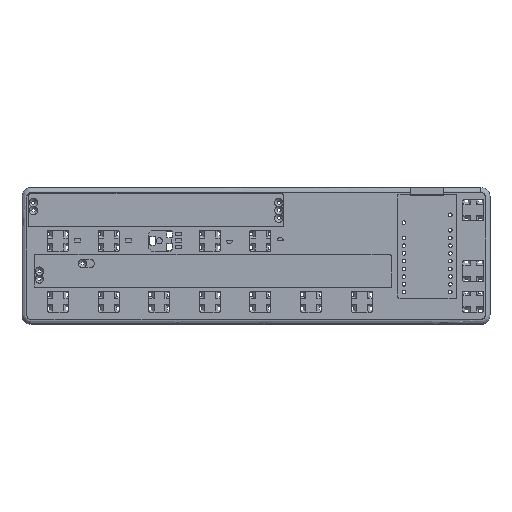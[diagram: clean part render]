
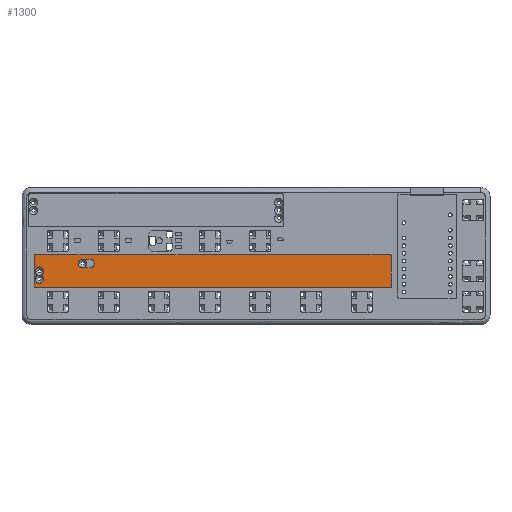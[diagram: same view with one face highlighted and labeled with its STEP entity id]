
A CAD part, top view. The second image highlights one B-rep face of the part: STEP entity #1300.
In plain terms, the highlighted planar face has unit normal (0, 0, 1).
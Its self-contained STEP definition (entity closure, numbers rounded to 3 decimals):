
#122=FACE_BOUND($,#4561,.T.);
#123=FACE_BOUND($,#4562,.T.);
#1300=ADVANCED_FACE($,(#2876,#122,#123),#22291,.T.);
#2876=FACE_OUTER_BOUND($,#4560,.T.);
#4560=EDGE_LOOP($,(#10676,#10677));
#4561=EDGE_LOOP($,(#10678,#10679,#10680,#10681));
#4562=EDGE_LOOP($,(#10682,#10683,#10684,#10685,#10686,#10687));
#10676=ORIENTED_EDGE($,*,*,#16890,.T.);
#10677=ORIENTED_EDGE($,*,*,#17978,.T.);
#10678=ORIENTED_EDGE($,*,*,#16889,.F.);
#10679=ORIENTED_EDGE($,*,*,#16884,.F.);
#10680=ORIENTED_EDGE($,*,*,#16887,.F.);
#10681=ORIENTED_EDGE($,*,*,#16886,.F.);
#10682=ORIENTED_EDGE($,*,*,#17985,.F.);
#10683=ORIENTED_EDGE($,*,*,#16883,.F.);
#10684=ORIENTED_EDGE($,*,*,#16882,.T.);
#10685=ORIENTED_EDGE($,*,*,#17983,.T.);
#10686=ORIENTED_EDGE($,*,*,#16877,.T.);
#10687=ORIENTED_EDGE($,*,*,#16879,.F.);
#16877=EDGE_CURVE($,#20013,#20016,#22645,.T.);
#16879=EDGE_CURVE($,#20014,#20016,#22647,.T.);
#16882=EDGE_CURVE($,#20015,#20741,#22649,.T.);
#16883=EDGE_CURVE($,#20015,#20742,#22650,.T.);
#16884=EDGE_CURVE($,#20017,#20019,#22651,.T.);
#16886=EDGE_CURVE($,#20018,#20020,#22653,.T.);
#16887=EDGE_CURVE($,#20020,#20017,#22654,.T.);
#16889=EDGE_CURVE($,#20019,#20018,#25779,.T.);
#16890=EDGE_CURVE($,#20021,#20738,#22656,.T.);
#17978=EDGE_CURVE($,#20738,#20021,#22831,.T.);
#17983=EDGE_CURVE($,#20741,#20013,#22836,.T.);
#17985=EDGE_CURVE($,#20742,#20014,#22838,.T.);
#20013=VERTEX_POINT($,#73745);
#20014=VERTEX_POINT($,#73746);
#20015=VERTEX_POINT($,#73747);
#20016=VERTEX_POINT($,#73748);
#20017=VERTEX_POINT($,#73749);
#20018=VERTEX_POINT($,#73750);
#20019=VERTEX_POINT($,#73751);
#20020=VERTEX_POINT($,#73752);
#20021=VERTEX_POINT($,#73753);
#20738=VERTEX_POINT($,#74470);
#20741=VERTEX_POINT($,#74473);
#20742=VERTEX_POINT($,#74474);
#22291=PLANE($,#27907);
#22645=(
BOUNDED_CURVE()
B_SPLINE_CURVE(2,(#42796,#42797,#42798),.UNSPECIFIED.,.F.,.F.)
B_SPLINE_CURVE_WITH_KNOTS((3,3),(-8.795,-7.225),.UNSPECIFIED.)
CURVE()
GEOMETRIC_REPRESENTATION_ITEM()
RATIONAL_B_SPLINE_CURVE((1.,0.843,1.))
REPRESENTATION_ITEM($)
);
#22647=(
BOUNDED_CURVE()
B_SPLINE_CURVE(2,(#42801,#42802,#42803),.UNSPECIFIED.,.F.,.F.)
B_SPLINE_CURVE_WITH_KNOTS((3,3),(-8.795,-7.225),.UNSPECIFIED.)
CURVE()
GEOMETRIC_REPRESENTATION_ITEM()
RATIONAL_B_SPLINE_CURVE((1.,0.843,1.))
REPRESENTATION_ITEM($)
);
#22649=(
BOUNDED_CURVE()
B_SPLINE_CURVE(2,(#42812,#42813,#42814),.UNSPECIFIED.,.F.,.F.)
B_SPLINE_CURVE_WITH_KNOTS((3,3),(-5.968,-4.398),.UNSPECIFIED.)
CURVE()
GEOMETRIC_REPRESENTATION_ITEM()
RATIONAL_B_SPLINE_CURVE((1.,0.843,1.))
REPRESENTATION_ITEM($)
);
#22650=(
BOUNDED_CURVE()
B_SPLINE_CURVE(2,(#42815,#42816,#42817),.UNSPECIFIED.,.F.,.F.)
B_SPLINE_CURVE_WITH_KNOTS((3,3),(-5.968,-4.398),.UNSPECIFIED.)
CURVE()
GEOMETRIC_REPRESENTATION_ITEM()
RATIONAL_B_SPLINE_CURVE((1.,0.843,1.))
REPRESENTATION_ITEM($)
);
#22651=(
BOUNDED_CURVE()
B_SPLINE_CURVE(2,(#42818,#42819,#42820),.UNSPECIFIED.,.F.,.F.)
B_SPLINE_CURVE_WITH_KNOTS((3,3),(-8.795,-6.596),.UNSPECIFIED.)
CURVE()
GEOMETRIC_REPRESENTATION_ITEM()
RATIONAL_B_SPLINE_CURVE((1.,0.707,1.))
REPRESENTATION_ITEM($)
);
#22653=(
BOUNDED_CURVE()
B_SPLINE_CURVE(2,(#42823,#42824,#42825,#42826,#42827,#42828,#42829,#42830,
#42831),.UNSPECIFIED.,.F.,.F.)
B_SPLINE_CURVE_WITH_KNOTS((3,2,2,2,3),(-7.5,-5.929,-4.358,
-3.108,-1.858),.UNSPECIFIED.)
CURVE()
GEOMETRIC_REPRESENTATION_ITEM()
RATIONAL_B_SPLINE_CURVE((1.,0.707,1.,0.707,1.,1.,
1.,1.,1.))
REPRESENTATION_ITEM($)
);
#22654=(
BOUNDED_CURVE()
B_SPLINE_CURVE(2,(#42832,#42833,#42834),.UNSPECIFIED.,.F.,.F.)
B_SPLINE_CURVE_WITH_KNOTS((3,3),(-2.199,0.),.UNSPECIFIED.)
CURVE()
GEOMETRIC_REPRESENTATION_ITEM()
RATIONAL_B_SPLINE_CURVE((1.,0.707,1.))
REPRESENTATION_ITEM($)
);
#22656=(
BOUNDED_CURVE()
B_SPLINE_CURVE(2,(#42841,#42842,#42843,#42844,#42845,#42846,#42847,#42848,
#42849),.UNSPECIFIED.,.F.,.F.)
B_SPLINE_CURVE_WITH_KNOTS((3,2,2,2,3),(0.,116.62,117.42,127.42,128.22),.UNSPECIFIED.)
CURVE()
GEOMETRIC_REPRESENTATION_ITEM()
RATIONAL_B_SPLINE_CURVE((1.,1.,1.,0.707,1.,1.,1.,0.707,
1.))
REPRESENTATION_ITEM($)
);
#22831=(
BOUNDED_CURVE()
B_SPLINE_CURVE(2,(#54461,#54462,#54463,#54464,#54465,#54466,#54467,#54468,
#54469),.UNSPECIFIED.,.F.,.F.)
B_SPLINE_CURVE_WITH_KNOTS((3,2,2,2,3),(128.22,244.84,245.64,255.64,256.44),
.UNSPECIFIED.)
CURVE()
GEOMETRIC_REPRESENTATION_ITEM()
RATIONAL_B_SPLINE_CURVE((1.,1.,1.,0.707,1.,1.,1.,0.707,
1.))
REPRESENTATION_ITEM($)
);
#22836=(
BOUNDED_CURVE()
B_SPLINE_CURVE(2,(#54490,#54491,#54492,#54493,#54494),.UNSPECIFIED.,.F.,
.F.)
B_SPLINE_CURVE_WITH_KNOTS((3,2,3),(-4.398,-2.199,0.),
.UNSPECIFIED.)
CURVE()
GEOMETRIC_REPRESENTATION_ITEM()
RATIONAL_B_SPLINE_CURVE((1.,0.707,1.,0.707,1.))
REPRESENTATION_ITEM($)
);
#22838=(
BOUNDED_CURVE()
B_SPLINE_CURVE(2,(#54497,#54498,#54499,#54500,#54501),.UNSPECIFIED.,.F.,
.F.)
B_SPLINE_CURVE_WITH_KNOTS((3,2,3),(-4.398,-2.199,0.),
.UNSPECIFIED.)
CURVE()
GEOMETRIC_REPRESENTATION_ITEM()
RATIONAL_B_SPLINE_CURVE((1.,0.707,1.,0.707,1.))
REPRESENTATION_ITEM($)
);
#25779=B_SPLINE_CURVE_WITH_KNOTS($,1,(#42838,#42839,#42840),.UNSPECIFIED.,
.F.,.F.,(2,1,2),(1.283,2.533,3.783),.UNSPECIFIED.);
#27907=AXIS2_PLACEMENT_3D($,#57246,#29079,$);
#29079=DIRECTION($,(0.,0.,1.));
#42796=CARTESIAN_POINT($,(4.35,14.96,3.5));
#42797=CARTESIAN_POINT($,(4.35,15.854,3.5));
#42798=CARTESIAN_POINT($,(5.16,16.23,3.5));
#42801=CARTESIAN_POINT($,(4.35,17.5,3.5));
#42802=CARTESIAN_POINT($,(4.35,16.606,3.5));
#42803=CARTESIAN_POINT($,(5.16,16.23,3.5));
#42812=CARTESIAN_POINT($,(6.339,16.23,3.5));
#42813=CARTESIAN_POINT($,(7.15,15.854,3.5));
#42814=CARTESIAN_POINT($,(7.15,14.96,3.5));
#42815=CARTESIAN_POINT($,(6.339,16.23,3.5));
#42816=CARTESIAN_POINT($,(7.15,16.606,3.5));
#42817=CARTESIAN_POINT($,(7.15,17.5,3.5));
#42818=CARTESIAN_POINT($,(18.51,20.04,3.5));
#42819=CARTESIAN_POINT($,(18.51,18.64,3.5));
#42820=CARTESIAN_POINT($,(19.91,18.64,3.5));
#42823=CARTESIAN_POINT($,(22.41,18.64,3.5));
#42824=CARTESIAN_POINT($,(23.81,18.64,3.5));
#42825=CARTESIAN_POINT($,(23.81,20.04,3.5));
#42826=CARTESIAN_POINT($,(23.81,21.44,3.5));
#42827=CARTESIAN_POINT($,(22.41,21.44,3.5));
#42828=CARTESIAN_POINT($,(21.785,21.44,3.5));
#42829=CARTESIAN_POINT($,(21.16,21.44,3.5));
#42830=CARTESIAN_POINT($,(20.535,21.44,3.5));
#42831=CARTESIAN_POINT($,(19.91,21.44,3.5));
#42832=CARTESIAN_POINT($,(19.91,21.44,3.5));
#42833=CARTESIAN_POINT($,(18.51,21.44,3.5));
#42834=CARTESIAN_POINT($,(18.51,20.04,3.5));
#42838=CARTESIAN_POINT($,(19.91,18.64,3.5));
#42839=CARTESIAN_POINT($,(21.16,18.64,3.5));
#42840=CARTESIAN_POINT($,(22.41,18.64,3.5));
#42841=CARTESIAN_POINT($,(4.5,12.1,3.5));
#42842=CARTESIAN_POINT($,(62.81,12.1,3.5));
#42843=CARTESIAN_POINT($,(121.12,12.1,3.5));
#42844=CARTESIAN_POINT($,(121.52,12.1,3.5));
#42845=CARTESIAN_POINT($,(121.52,12.5,3.5));
#42846=CARTESIAN_POINT($,(121.52,17.5,3.5));
#42847=CARTESIAN_POINT($,(121.52,22.5,3.5));
#42848=CARTESIAN_POINT($,(121.52,22.9,3.5));
#42849=CARTESIAN_POINT($,(121.12,22.9,3.5));
#54461=CARTESIAN_POINT($,(121.12,22.9,3.5));
#54462=CARTESIAN_POINT($,(62.81,22.9,3.5));
#54463=CARTESIAN_POINT($,(4.5,22.9,3.5));
#54464=CARTESIAN_POINT($,(4.1,22.9,3.5));
#54465=CARTESIAN_POINT($,(4.1,22.5,3.5));
#54466=CARTESIAN_POINT($,(4.1,17.5,3.5));
#54467=CARTESIAN_POINT($,(4.1,12.5,3.5));
#54468=CARTESIAN_POINT($,(4.1,12.1,3.5));
#54469=CARTESIAN_POINT($,(4.5,12.1,3.5));
#54490=CARTESIAN_POINT($,(7.15,14.96,3.5));
#54491=CARTESIAN_POINT($,(7.15,13.56,3.5));
#54492=CARTESIAN_POINT($,(5.75,13.56,3.5));
#54493=CARTESIAN_POINT($,(4.35,13.56,3.5));
#54494=CARTESIAN_POINT($,(4.35,14.96,3.5));
#54497=CARTESIAN_POINT($,(7.15,17.5,3.5));
#54498=CARTESIAN_POINT($,(7.15,18.9,3.5));
#54499=CARTESIAN_POINT($,(5.75,18.9,3.5));
#54500=CARTESIAN_POINT($,(4.35,18.9,3.5));
#54501=CARTESIAN_POINT($,(4.35,17.5,3.5));
#57246=CARTESIAN_POINT($,(4.1,12.1,3.5));
#73745=CARTESIAN_POINT($,(4.35,14.96,3.5));
#73746=CARTESIAN_POINT($,(4.35,17.5,3.5));
#73747=CARTESIAN_POINT($,(6.339,16.23,3.5));
#73748=CARTESIAN_POINT($,(5.16,16.23,3.5));
#73749=CARTESIAN_POINT($,(18.51,20.04,3.5));
#73750=CARTESIAN_POINT($,(22.41,18.64,3.5));
#73751=CARTESIAN_POINT($,(19.91,18.64,3.5));
#73752=CARTESIAN_POINT($,(19.91,21.44,3.5));
#73753=CARTESIAN_POINT($,(4.5,12.1,3.5));
#74470=CARTESIAN_POINT($,(121.12,22.9,3.5));
#74473=CARTESIAN_POINT($,(7.15,14.96,3.5));
#74474=CARTESIAN_POINT($,(7.15,17.5,3.5));
